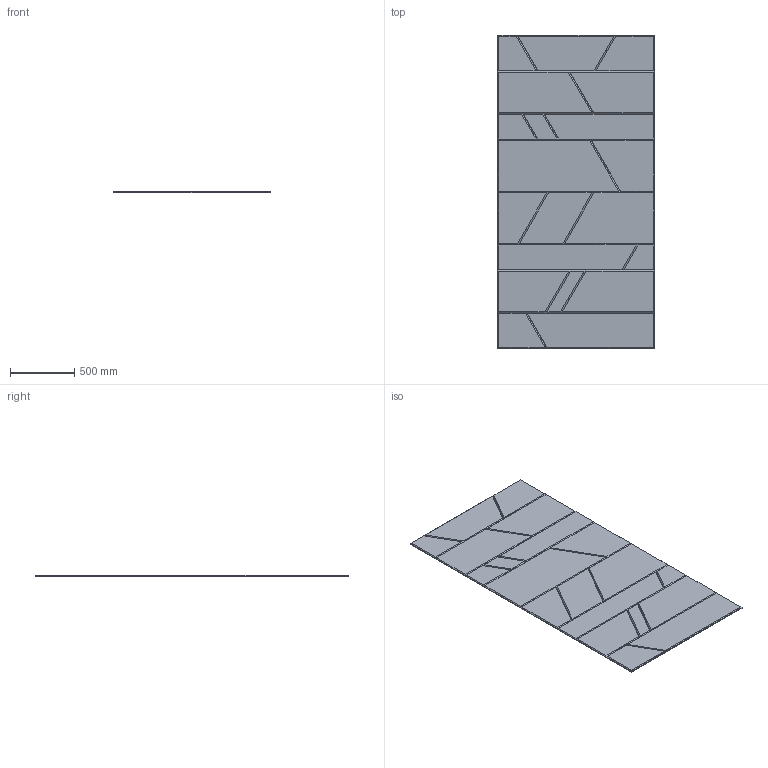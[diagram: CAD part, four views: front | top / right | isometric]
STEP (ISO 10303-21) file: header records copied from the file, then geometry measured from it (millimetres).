
FILE_DESCRIPTION(/* description */ (''),/* implementation_level */ '2;1');
FILE_NAME(/* name */ 'Y:\Design and Engineering\MaterialLogiq\CAD ASSETS\MASTER\PET ENGRAVED\WEB ASSETS\Tangram Horizontal.stp',/* time_stamp */ '2024-09-05T08:42:11-05:00',/* author */ ('Grant Baker'),/* organization */ (''),/* preprocessor_version */ 'ST-DEVELOPER v19',/* originating_system */ 'Autodesk Inventor 2023',/* authorisation */ '');
FILE_SCHEMA (('AUTOMOTIVE_DESIGN { 1 0 10303 214 3 1 1 }'));
Length unit declared in the file: inch
Products named in the file (1): Tangram Horizontal
Bounding box: 1219.2 x 2438.4 x 12.7 mm (x, y, z)
Volume: 37101345.9 mm3; surface area: 6077139.5 mm2
Topology: 1 solids, 1 shells, 105 faces, 229 edges, 126 vertices
Faces by surface type: plane 105
Entity records: 2748 total; most frequent: CARTESIAN_POINT 461, ORIENTED_EDGE 458, DIRECTION 441, LINE 229, VECTOR 229, EDGE_CURVE 229, VERTEX_POINT 126, AXIS2_PLACEMENT_3D 106
